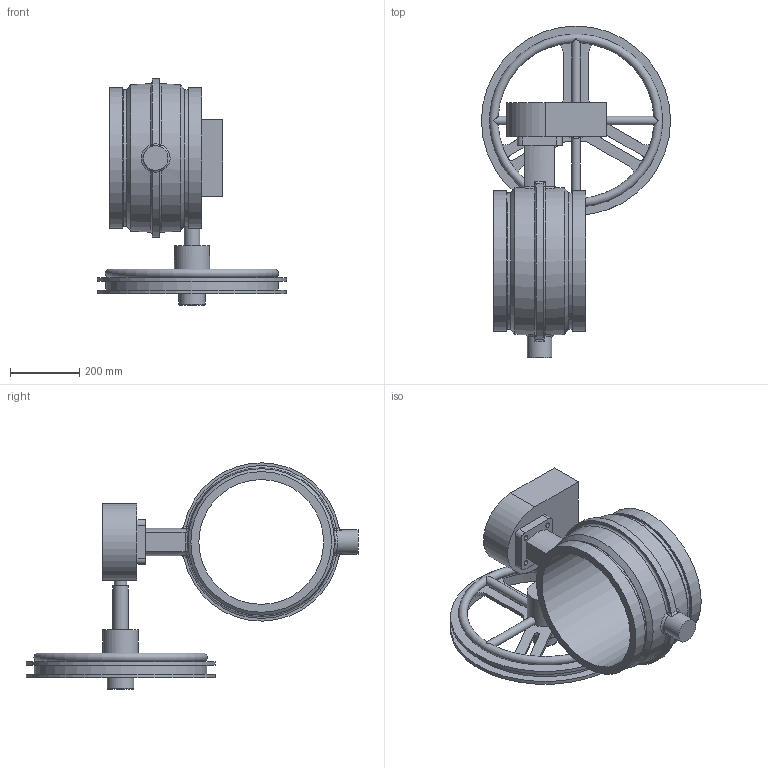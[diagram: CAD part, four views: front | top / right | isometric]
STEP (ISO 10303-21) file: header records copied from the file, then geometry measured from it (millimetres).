
FILE_DESCRIPTION(/* description */ ('VIC AGS VALVE BUTTERFLY VIC-300 MS CW SERIES W761 (AGS)'),/* implementation_level */ '2;1');
FILE_NAME(/* name */ 'C:\Files for Export\W761\STEP\Victaulic_IPS-AGS_Vlv Btfl Vic-300 MS CW_Series W761 (AGS)\Victaulic_IPS-AGS_Vlv Btfl Vic-300 MS CW_Series W761 (AGS)_16 (400).stp',/* time_stamp */ '2024-08-27T14:19:00+02:00',/* author */ ('jheald'),/* organization */ ('Victaulic'),/* preprocessor_version */ 'ST-DEVELOPER v18.1',/* originating_system */ 'Autodesk Inventor 2020',/* authorisation */ '');
FILE_SCHEMA (('AUTOMOTIVE_DESIGN { 1 0 10303 214 3 1 1 }'));
Length unit declared in the file: inch
Products named in the file (1): W761-16.0
Bounding box: 546.1 x 958.85 x 653.78 mm (x, y, z)
Volume: 20915496.3 mm3; surface area: 1712853 mm2
Topology: 1 solids, 1 shells, 155 faces, 447 edges, 293 vertices
Faces by surface type: cylinder 66, plane 53, torus 14, bspline 10, sphere 8, cone 4
Full cylindrical faces by diameter (mm): 14.681 x4, 24.994 x2, 35.56 x1, 44.45 x1, 71.12 x1, 76.2 x1, 101.6 x1, 124.46 x1, 360.426 x1, 393.7 x2, 406.4 x2, 489.712 x1, 497.84 x1, 546.1 x2
Entity records: 6310 total; most frequent: CARTESIAN_POINT 1909, ORIENTED_EDGE 908, DIRECTION 891, EDGE_CURVE 454, AXIS2_PLACEMENT_3D 371, VERTEX_POINT 293, CIRCLE 225, EDGE_LOOP 181
